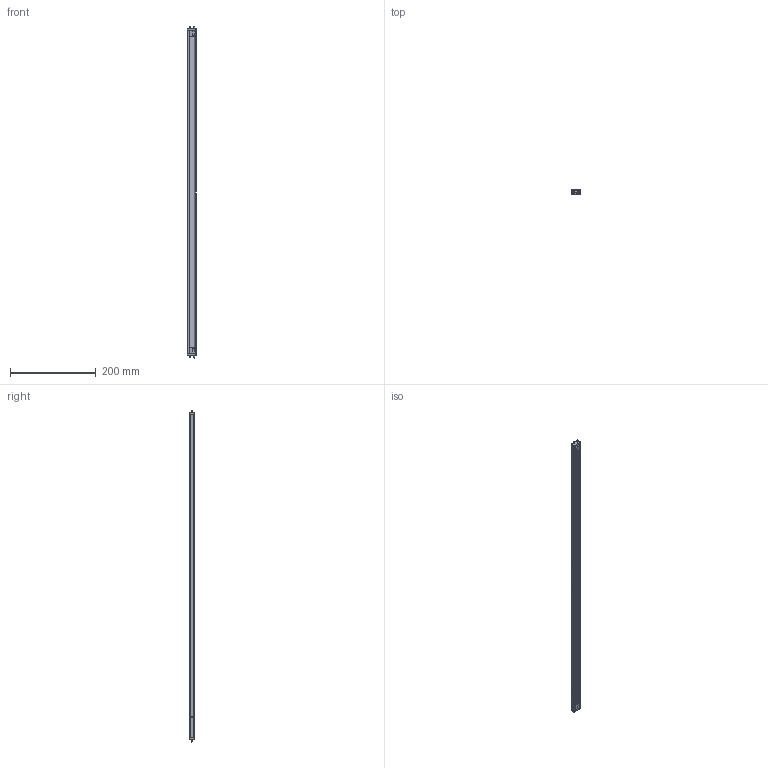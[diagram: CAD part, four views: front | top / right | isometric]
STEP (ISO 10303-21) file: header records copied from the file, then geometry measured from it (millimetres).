
FILE_DESCRIPTION (( 'STEP AP214' ), '1' );
FILE_NAME ('2000491 Kiton EDC 761 mm.STEP', '2022-11-09T06:56:19', ( '' ), ( '' ), 'SwSTEP 2.0', 'SolidWorks 2021', '' );
FILE_SCHEMA (( 'AUTOMOTIVE_DESIGN' ));
Length unit declared in the file: millimetre
Products named in the file (11): sheet metal screws_din_Tapping screw DIN 7049-ST2.2x9.5-C-H-C; 6201094 PROFILO LAMPADA_761 mm; 6201093 Konsole rechts_761 mm; SUPPORTO TESTATA_SUPPORTO TESTATA SX; SUPPORTO TESTATA_SUPPORTO TESTATA DX; TESTATA_TESTATA SX; SENSORE PROG. PROXIMITY; TESTATA_TESTATA DX; VITE TS TORX 2x6; 2000491 Kiton EDC 761 mm; STRIP REEL 180 LED METRO 5.25mm
Assembly tree (20 placements, depth 2):
  2000491 Kiton EDC 761 mm
    6201094 PROFILO LAMPADA_761 mm
    6201093 Konsole rechts_761 mm
    TESTATA_TESTATA DX
    TESTATA_TESTATA SX
    SUPPORTO TESTATA_SUPPORTO TESTATA DX
    SUPPORTO TESTATA_SUPPORTO TESTATA SX
    SENSORE PROG. PROXIMITY  x2
    STRIP REEL 180 LED METRO 5.25mm  x7
    sheet metal screws_din_Tapping screw DIN 7049-ST2.2x9.5-C-H-C  x4
    VITE TS TORX 2x6
Bounding box: 22.2 x 11.46 x 774.26 mm (x, y, z)
Volume: 85071.1 mm3; surface area: 120717.9 mm2
Topology: 20 solids, 20 shells, 1637 faces, 4482 edges, 2975 vertices
Faces by surface type: plane 1206, cylinder 317, bspline 83, cone 15, sphere 12, torus 4
Entity records: 40450 total; most frequent: CARTESIAN_POINT 13968, ORIENTED_EDGE 5342, DIRECTION 4299, EDGE_CURVE 2671, VECTOR 2003, LINE 2003, VERTEX_POINT 1774, AXIS2_PLACEMENT_3D 1148
